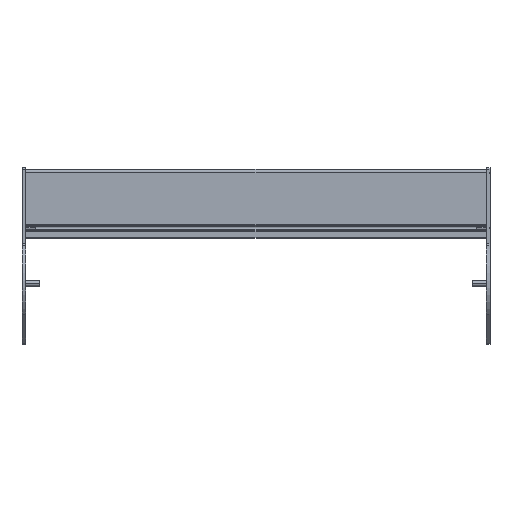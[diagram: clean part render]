
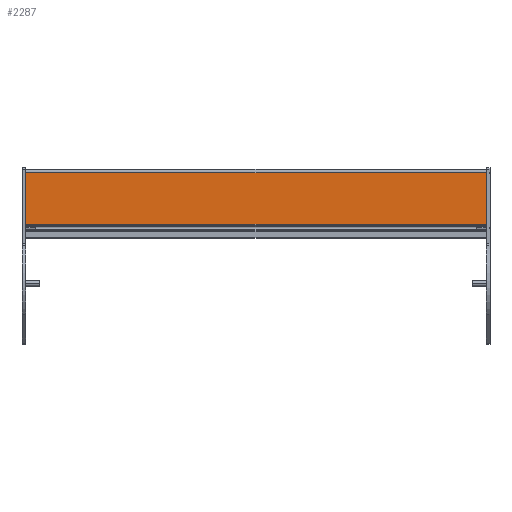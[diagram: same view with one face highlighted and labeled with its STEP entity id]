
A CAD part, top view. The second image highlights one B-rep face of the part: STEP entity #2287.
In plain terms, the highlighted planar face has unit normal (0, 0, 1) as drawn and (1, 0, 0) by its records, which use the part's own axes.
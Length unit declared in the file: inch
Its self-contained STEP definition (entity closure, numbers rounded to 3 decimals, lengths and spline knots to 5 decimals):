
#197=DIRECTION('',(0.,1.,0.));
#198=VECTOR('',#197,1.81445);
#199=CARTESIAN_POINT('',(0.683,-0.84545,-8.118));
#200=LINE('',#199,#198);
#303=DIRECTION('',(0.,1.,0.));
#304=VECTOR('',#303,1.81445);
#305=CARTESIAN_POINT('',(0.683,-0.84545,8.118));
#306=LINE('',#305,#304);
#652=DIRECTION('',(0.,0.,1.));
#653=VECTOR('',#652,16.236);
#654=CARTESIAN_POINT('',(0.683,0.969,-8.118));
#655=LINE('',#654,#653);
#665=DIRECTION('',(0.,0.,-1.));
#666=VECTOR('',#665,16.236);
#667=CARTESIAN_POINT('',(0.683,-0.84545,8.118));
#668=LINE('',#667,#666);
#1268=CARTESIAN_POINT('',(0.683,-0.84545,-8.118));
#1269=CARTESIAN_POINT('',(0.683,0.969,-8.118));
#1270=VERTEX_POINT('',#1268);
#1271=VERTEX_POINT('',#1269);
#1272=CARTESIAN_POINT('',(0.683,-0.84545,8.118));
#1273=CARTESIAN_POINT('',(0.683,0.969,8.118));
#1274=VERTEX_POINT('',#1272);
#1275=VERTEX_POINT('',#1273);
#2275=CARTESIAN_POINT('',(0.683,-0.86334,-8.118));
#2276=DIRECTION('',(1.,0.,0.));
#2277=DIRECTION('',(0.,1.,0.));
#2278=AXIS2_PLACEMENT_3D('',#2275,#2276,#2277);
#2279=PLANE('',#2278);
#2280=ORIENTED_EDGE('',*,*,#1633,.F.);
#2282=ORIENTED_EDGE('',*,*,#2281,.F.);
#2283=ORIENTED_EDGE('',*,*,#1736,.T.);
#2284=ORIENTED_EDGE('',*,*,#2268,.F.);
#2285=EDGE_LOOP('',(#2280,#2282,#2283,#2284));
#2286=FACE_OUTER_BOUND('',#2285,.F.);
#1633=EDGE_CURVE('',#1270,#1271,#200,.T.);
#1736=EDGE_CURVE('',#1274,#1275,#306,.T.);
#2268=EDGE_CURVE('',#1271,#1275,#655,.T.);
#2281=EDGE_CURVE('',#1274,#1270,#668,.T.);
#2287=ADVANCED_FACE('',(#2286),#2279,.T.);
